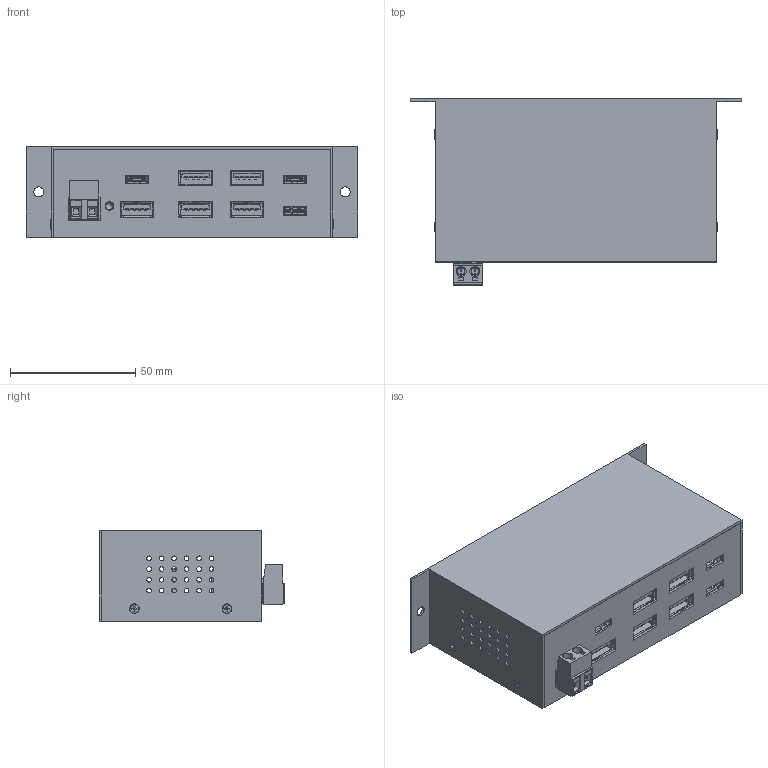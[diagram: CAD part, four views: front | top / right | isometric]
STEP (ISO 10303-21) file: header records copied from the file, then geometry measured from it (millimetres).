
FILE_DESCRIPTION(('FreeCAD Model'),'2;1');
FILE_NAME('Y:/Technische Zeichnungen/EX-1196HMS/EX-1196HMS_3D.step', '2017-10-25T12:06:59',('Author'),(''), 'Open CASCADE STEP processor 6.8','FreeCAD','Unknown');
FILE_SCHEMA(('AUTOMOTIVE_DESIGN_CC2 { 1 2 10303 214 -1 1 5 4 }'));
Products named in the file (1): EX-1196HMS_3D
Bounding box: 132.5 x 74.3 x 36.3 mm (x, y, z)
Volume: 57392.2 mm3; surface area: 100884.7 mm2
Topology: 6 solids, 6 shells, 4785 faces, 14213 edges, 9402 vertices
Faces by surface type: plane 3498, cylinder 1066, cone 144, torus 68, sphere 9
Full cylindrical faces by diameter (mm): 0.55 x6, 1.85 x48, 2.4 x8, 2.5 x8, 2.8 x8, 3.12 x2, 3.2 x8, 3.4 x5, 4 x4
Entity records: 510819 total; most frequent: CARTESIAN_POINT 209648, DIRECTION 45436, LINE 29222, VECTOR 29222, ORIENTED_EDGE 28406, PCURVE 28406, DEFINITIONAL_REPRESENTATION 28406, EDGE_CURVE 14203
